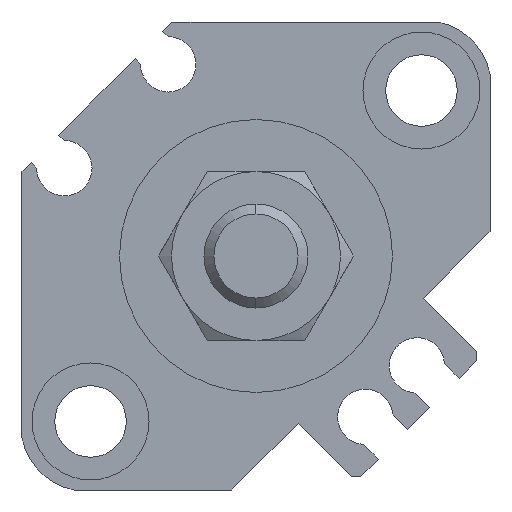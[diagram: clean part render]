
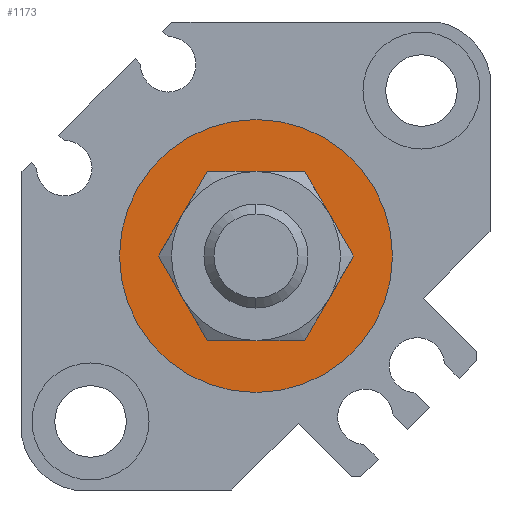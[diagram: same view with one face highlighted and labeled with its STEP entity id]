
A CAD part, left-side view. The second image highlights one B-rep face of the part: STEP entity #1173.
In plain terms, the highlighted planar face has unit normal (-1, 0, 0).
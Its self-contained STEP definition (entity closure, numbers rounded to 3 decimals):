
#9 = AXIS2_PLACEMENT_3D ( 'NONE', #280, #1944, #3610 ) ;
#16 = DIRECTION ( 'NONE',  ( 1., 0., 0. ) ) ;
#280 = CARTESIAN_POINT ( 'NONE',  ( 1.6, 0., 0. ) ) ;
#331 = CARTESIAN_POINT ( 'NONE',  ( 1.6, 0., -10.5 ) ) ;
#923 = DIRECTION ( 'NONE',  ( 0., 1., 0. ) ) ;
#954 = FACE_BOUND ( 'NONE', #1441, .T. ) ;
#968 = ORIENTED_EDGE ( 'NONE', *, *, #1269, .T. ) ;
#1150 = VERTEX_POINT ( 'NONE', #3843 ) ;
#1156 = AXIS2_PLACEMENT_3D ( 'NONE', #2488, #4950, #2435 ) ;
#1173 = ADVANCED_FACE ( 'NONE', ( #1286, #954 ), #1718, .F. ) ;
#1187 = AXIS2_PLACEMENT_3D ( 'NONE', #1481, #3954, #3143 ) ;
#1255 = VERTEX_POINT ( 'NONE', #5196 ) ;
#1269 = EDGE_CURVE ( 'NONE', #1255, #1150, #1273, .T. ) ;
#1271 = ORIENTED_EDGE ( 'NONE', *, *, #3141, .F. ) ;
#1273 = CIRCLE ( 'NONE', #1187, 6.5 ) ;
#1286 = FACE_OUTER_BOUND ( 'NONE', #1528, .T. ) ;
#1340 = ORIENTED_EDGE ( 'NONE', *, *, #2305, .F. ) ;
#1441 = EDGE_LOOP ( 'NONE', ( #968, #3607 ) ) ;
#1458 = AXIS2_PLACEMENT_3D ( 'NONE', #3779, #16, #1959 ) ;
#1481 = CARTESIAN_POINT ( 'NONE',  ( 1.6, 0., 0. ) ) ;
#1528 = EDGE_LOOP ( 'NONE', ( #1340, #1271 ) ) ;
#1718 = PLANE ( 'NONE',  #3017 ) ;
#1772 = DIRECTION ( 'NONE',  ( 1., 0., 0. ) ) ;
#1944 = DIRECTION ( 'NONE',  ( 1., 0., 0. ) ) ;
#1959 = DIRECTION ( 'NONE',  ( 0., 0., -1. ) ) ;
#2305 = EDGE_CURVE ( 'NONE', #4462, #4516, #3026, .T. ) ;
#2435 = DIRECTION ( 'NONE',  ( 0., 0., -1. ) ) ;
#2488 = CARTESIAN_POINT ( 'NONE',  ( 1.6, 0., 0. ) ) ;
#3017 = AXIS2_PLACEMENT_3D ( 'NONE', #4165, #1772, #923 ) ;
#3026 = CIRCLE ( 'NONE', #1458, 10.5 ) ;
#3141 = EDGE_CURVE ( 'NONE', #4516, #4462, #3501, .T. ) ;
#3143 = DIRECTION ( 'NONE',  ( 0., 0., -1. ) ) ;
#3501 = CIRCLE ( 'NONE', #1156, 10.5 ) ;
#3607 = ORIENTED_EDGE ( 'NONE', *, *, #5223, .T. ) ;
#3610 = DIRECTION ( 'NONE',  ( 0., 0., -1. ) ) ;
#3779 = CARTESIAN_POINT ( 'NONE',  ( 1.6, 0., 0. ) ) ;
#3843 = CARTESIAN_POINT ( 'NONE',  ( 1.6, 0., -6.5 ) ) ;
#3954 = DIRECTION ( 'NONE',  ( 1., 0., 0. ) ) ;
#4165 = CARTESIAN_POINT ( 'NONE',  ( 1.6, 0., 0. ) ) ;
#4462 = VERTEX_POINT ( 'NONE', #4824 ) ;
#4516 = VERTEX_POINT ( 'NONE', #331 ) ;
#4824 = CARTESIAN_POINT ( 'NONE',  ( 1.6, 0., 10.5 ) ) ;
#4950 = DIRECTION ( 'NONE',  ( 1., 0., 0. ) ) ;
#5196 = CARTESIAN_POINT ( 'NONE',  ( 1.6, 0., 6.5 ) ) ;
#5223 = EDGE_CURVE ( 'NONE', #1150, #1255, #5225, .T. ) ;
#5225 = CIRCLE ( 'NONE', #9, 6.5 ) ;
